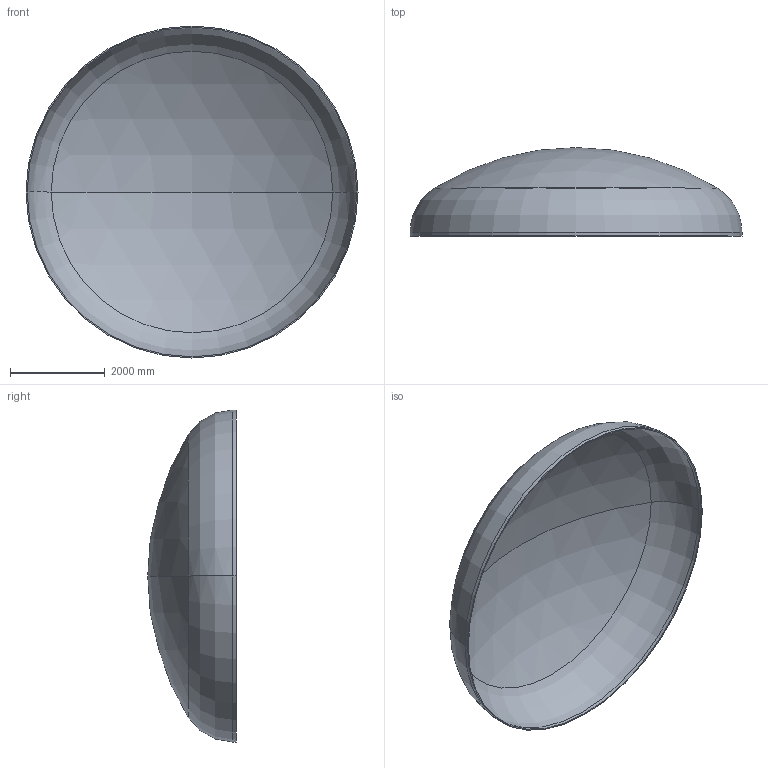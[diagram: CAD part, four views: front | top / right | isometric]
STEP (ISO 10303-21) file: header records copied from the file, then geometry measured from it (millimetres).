
FILE_DESCRIPTION (( 'STEP AP203' ), '1' );
FILE_NAME ('DIN 28013 Korbbogenform_-_Boden DIN 28013 - 7000 x 75 - I - s=24.step', '2016-07-04T10:46:03', ( '' ), ( '' ), 'SwSTEP 2.0', 'SolidWorks 2013', '' );
FILE_SCHEMA (( 'CONFIG_CONTROL_DESIGN' ));
Length unit declared in the file: millimetre
Products named in the file (1): DIN 28013 Korbbogenform_-_Boden DIN 28013 - 7000 x 75 - I - s=24
Bounding box: 7000 x 1866.3 x 7000 mm (x, y, z)
Volume: 1313412855 mm3; surface area: 109978211.4 mm2
Topology: 1 solids, 1 shells, 13 faces, 24 edges, 14 vertices
Faces by surface type: torus 4, cylinder 4, sphere 4, plane 1
Entity records: 407 total; most frequent: DIRECTION 72, CARTESIAN_POINT 52, ORIENTED_EDGE 48, AXIS2_PLACEMENT_3D 34, EDGE_CURVE 24, CIRCLE 20, VERTEX_POINT 14, EDGE_LOOP 14
